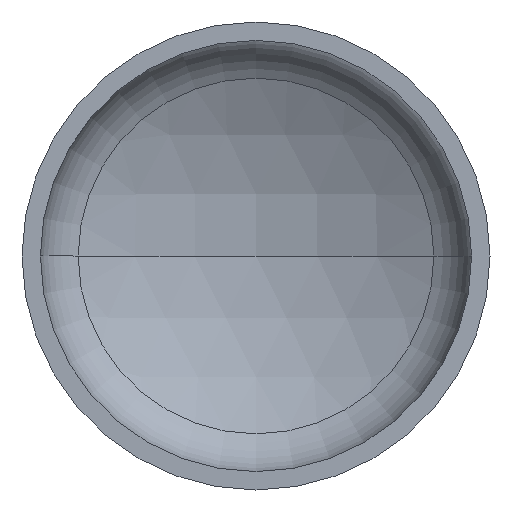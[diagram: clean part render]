
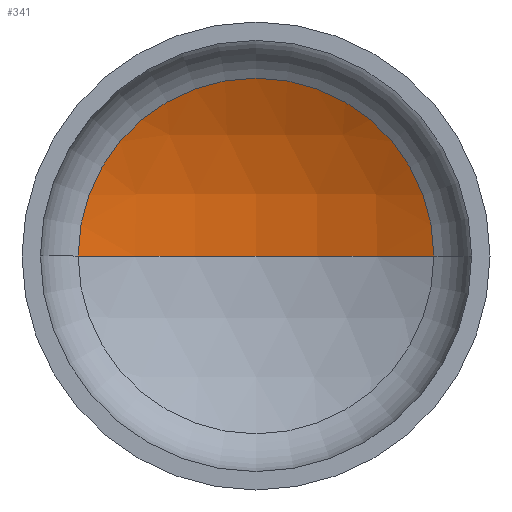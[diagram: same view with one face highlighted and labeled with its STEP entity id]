
A CAD part, front view. The second image highlights one B-rep face of the part: STEP entity #341.
In plain terms, the highlighted spherical face has radius 2240 mm.
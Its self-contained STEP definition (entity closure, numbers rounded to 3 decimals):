
#7 = DIRECTION ( 'NONE',  ( 0., 0., -1. ) ) ;
#12 = DIRECTION ( 'NONE',  ( 0., 0., 1. ) ) ;
#22 = AXIS2_PLACEMENT_3D ( 'NONE', #27, #12, #84 ) ;
#23 = AXIS2_PLACEMENT_3D ( 'NONE', #93, #7, #170 ) ;
#26 = AXIS2_PLACEMENT_3D ( 'NONE', #141, #142, #145 ) ;
#27 = CARTESIAN_POINT ( 'NONE',  ( 0., -1517.639, 0. ) ) ;
#47 = CARTESIAN_POINT ( 'NONE',  ( 0., 722.361, 0. ) ) ;
#60 = EDGE_CURVE ( 'NONE', #284, #335, #75, .T. ) ;
#61 = EDGE_CURVE ( 'NONE', #217, #284, #369, .T. ) ;
#62 = EDGE_CURVE ( 'NONE', #217, #335, #214, .T. ) ;
#75 = CIRCLE ( 'NONE', #26, 1064.309 ) ;
#83 = CARTESIAN_POINT ( 'NONE',  ( 1064.309, 453.362, 0. ) ) ;
#84 = DIRECTION ( 'NONE',  ( 1., 0., 0. ) ) ;
#91 = DIRECTION ( 'NONE',  ( -1., 0., 0. ) ) ;
#93 = CARTESIAN_POINT ( 'NONE',  ( 0., -1517.639, 0. ) ) ;
#116 = CARTESIAN_POINT ( 'NONE',  ( -1064.309, 453.362, 0. ) ) ;
#127 = CARTESIAN_POINT ( 'NONE',  ( 0., -1517.639, 0. ) ) ;
#141 = CARTESIAN_POINT ( 'NONE',  ( 0., 453.362, 0. ) ) ;
#142 = DIRECTION ( 'NONE',  ( 0., -1., 0. ) ) ;
#145 = DIRECTION ( 'NONE',  ( 1., 0., 0. ) ) ;
#169 = AXIS2_PLACEMENT_3D ( 'NONE', #127, #175, #91 ) ;
#170 = DIRECTION ( 'NONE',  ( -1., 0., 0. ) ) ;
#175 = DIRECTION ( 'NONE',  ( 0., 0., -1. ) ) ;
#179 = ORIENTED_EDGE ( 'NONE', *, *, #60, .T. ) ;
#214 = CIRCLE ( 'NONE', #22, 2240. ) ;
#217 = VERTEX_POINT ( 'NONE', #47 ) ;
#246 = ORIENTED_EDGE ( 'NONE', *, *, #61, .T. ) ;
#256 = ORIENTED_EDGE ( 'NONE', *, *, #62, .F. ) ;
#284 = VERTEX_POINT ( 'NONE', #83 ) ;
#314 = SPHERICAL_SURFACE ( 'NONE', #169, 2240. ) ;
#335 = VERTEX_POINT ( 'NONE', #116 ) ;
#341 = ADVANCED_FACE ( 'NONE', ( #390 ), #314, .F. ) ;
#343 = EDGE_LOOP ( 'NONE', ( #256, #246, #179 ) ) ;
#369 = CIRCLE ( 'NONE', #23, 2240. ) ;
#390 = FACE_OUTER_BOUND ( 'NONE', #343, .T. ) ;
